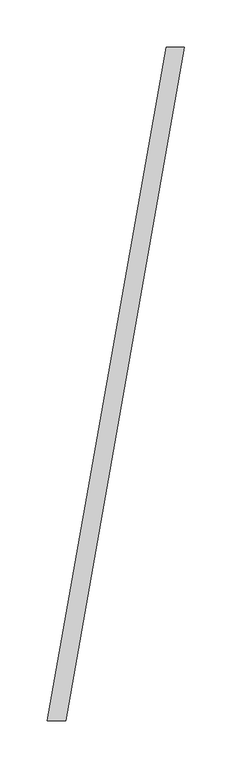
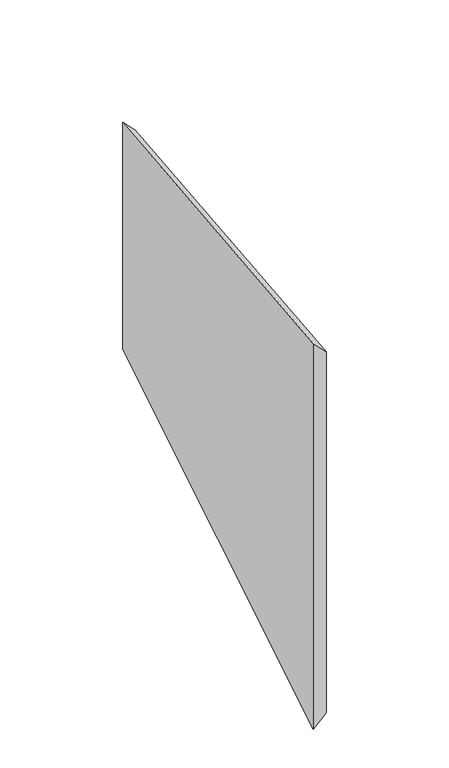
"""IFC4 building model written with IfcOpenShell, lengths in millimetres: proxy geometry, GRADIENT^TABLE 7_PYRAMID BASES-END BASE BACK."""

from ifc_helpers import new_model, si_unit, origin, place, context, project, spatial, faceted_brep, source, transform, mapped, element, save


def generic_models_5c3ddc13(model_context):
    return source(origin(), model_context, "Body", "Brep", [
        faceted_brep([(582.6037487, 0.0, -941.3962513), (582.6037487, 0.0, -582.6037487), (601.9476256, 0.0, -601.9476256), (601.9476256, 0.0, -922.0523744), (476.543877, -711.2, -476.543877), (476.543877, -711.2, -1047.456123), (457.2, -711.2, -1066.8), (457.2, -711.2, -457.2)], [[[0, 1, 2, 3]], [[3, 2, 4, 5]], [[6, 0, 3, 5]], [[1, 0, 6, 7]], [[6, 5, 4, 7]], [[1, 7, 4, 2]]]),
    ])


if __name__ == "__main__":
    model = new_model("IFC4")
    model_context = context("Model", 3, world=origin())
    ifc_project = project(units=[si_unit("LENGTHUNIT", "METRE", prefix="MILLI")], contexts=[model_context])
    site = spatial("IfcSite", under=ifc_project)
    building = spatial("IfcBuilding", under=site)
    placement = place(None, origin())
    generic_models_shape = generic_models_5c3ddc13(model_context)
    element("IfcBuildingElementProxy", 1, Name="GRADIENT^TABLE 7_PYRAMID BASES-END BASE BACK", ObjectType="GRADIENT^TABLE 7_PYRAMID BASES-END BASE BACK", at=placement, inside=building, context=model_context, shape_type="MappedRepresentation", body=[
        mapped(generic_models_shape, transform((0.0, 0.0, 0.0), x_axis=(1.0, 0.0, 0.0), y_axis=(0.0, 1.0, 0.0), z_axis=(0.0, 0.0, 1.0))),
    ])
    save(model, "model.ifc")
